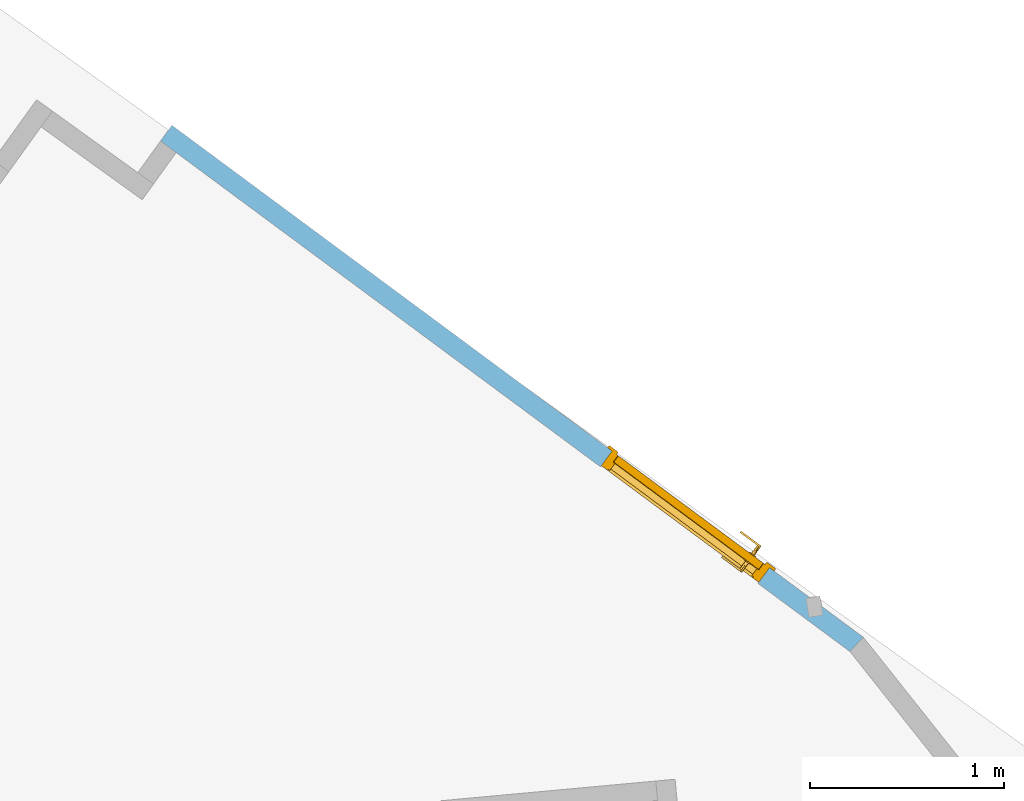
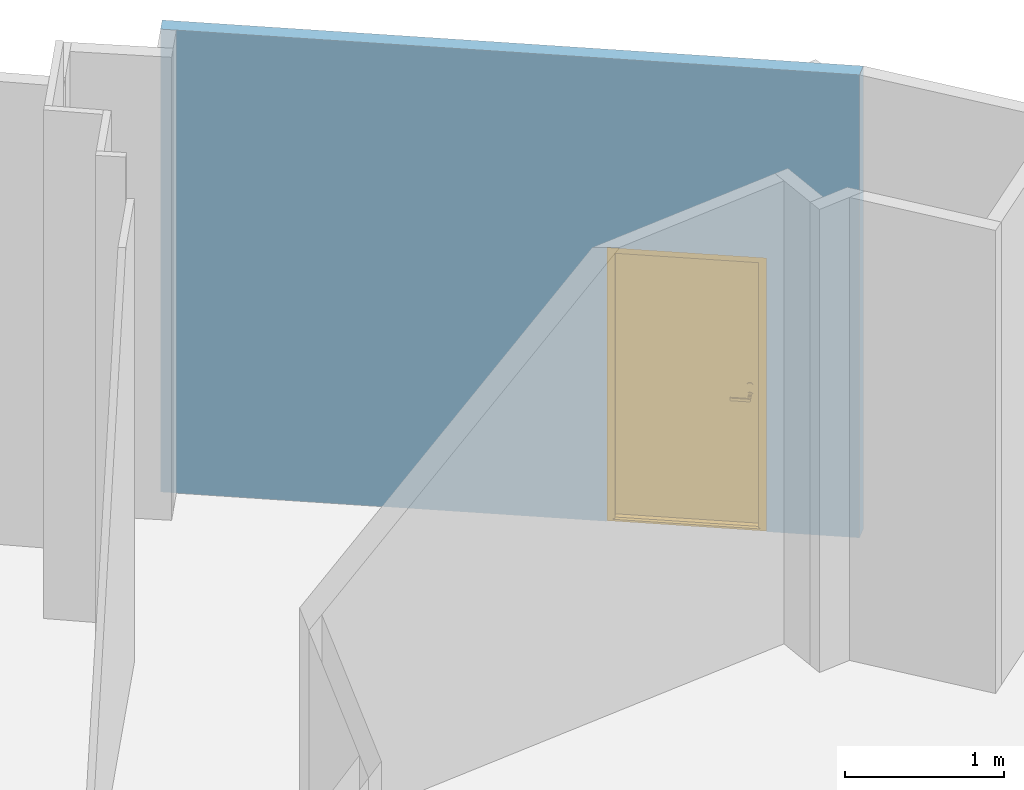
# One storey, part 8 of 10: 1 door, 1 opening, plus 1 element that does not belong to this part.
"""IFC2X3 building model written with IfcOpenShell, lengths in millimetres."""

from ifc_helpers import new_model, entity, si_unit, converted_unit, derived_unit, direction, frame, frame_2d, origin, origin_with_axes, place, context, subcontext, project, spatial, polyline, rectangle, outline, extrude, faceted_brep, source, transform, mapped, material, material_list, layer, layer_set, layer_usage, type_object, element, fill, save


model = new_model("IFC2X3")

# Units and contexts
model_context = context("Model", 3, precision=0.01, world=origin(), true_north=direction((6.12323399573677e-17, 1.0)))
plan_context = context("Plan", 3, precision=1e-05, world=origin_with_axes())
body_context = subcontext(model_context, "Body", "Model", "MODEL_VIEW")
ifc_project = project(units=[converted_unit("PLANEANGLEUNIT", "DEGREE", entity("IfcPositiveLengthMeasure", 0.0174532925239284), si_unit("PLANEANGLEUNIT", "RADIAN"), dimensions=[0, 0, 0, 0, 0, 0, 0]), si_unit("AREAUNIT", "SQUARE_METRE"), si_unit("LENGTHUNIT", "METRE", prefix="MILLI"), si_unit("MASSUNIT", "GRAM", prefix="KILO"), si_unit("POWERUNIT", "WATT"), si_unit("PRESSUREUNIT", "PASCAL", prefix="KILO"), si_unit("FORCEUNIT", "NEWTON", prefix="KILO"), si_unit("ELECTRICVOLTAGEUNIT", "VOLT"), si_unit("ELECTRICCURRENTUNIT", "AMPERE"), si_unit("THERMODYNAMICTEMPERATUREUNIT", "DEGREE_CELSIUS"), si_unit("TIMEUNIT", "SECOND"), si_unit("VOLUMEUNIT", "CUBIC_METRE"), derived_unit("LINEARVELOCITYUNIT", [(si_unit("LENGTHUNIT", "METRE"), 1), (si_unit("TIMEUNIT", "SECOND"), -1)]), derived_unit("VOLUMETRICFLOWRATEUNIT", [(si_unit("VOLUMEUNIT", "CUBIC_METRE"), 1), (si_unit("TIMEUNIT", "SECOND"), -1)]), derived_unit("THERMALTRANSMITTANCEUNIT", [(si_unit("POWERUNIT", "WATT"), 1), (si_unit("THERMODYNAMICTEMPERATUREUNIT", "KELVIN"), -1), (si_unit("AREAUNIT", "SQUARE_METRE"), -1)]), derived_unit("SOUNDPRESSUREUNIT", [(si_unit("PRESSUREUNIT", "PASCAL"), 1)])], contexts=[model_context, plan_context])

# Site, building, storey
site_placement = place(None, frame((-305029.896016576, -232111.759730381, 0.0), z_axis=(0.0, 0.0, 1.0), x_axis=(-0.160806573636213, 0.986985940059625, 0.0)))
site = spatial("IfcSite", under=ifc_project, at=site_placement, Name="Default", CompositionType="ELEMENT")
building_placement = place(site_placement, frame((0.0, 0.0, 0.0), z_axis=(0.0, 0.0, 1.0), x_axis=(1.0, -2.77555756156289e-17, 0.0)))
building = spatial("IfcBuilding", under=site, at=building_placement, Name="br001-a-200-1-0001", CompositionType="ELEMENT")
storey_placement = place(building_placement, frame((0.0, 0.0, 55500.0), z_axis=(0.0, 0.0, 1.0), x_axis=(1.0, -2.77555756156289e-17, 0.0)))
storey = spatial("IfcBuildingStorey", under=building, at=storey_placement, Name="H02-Nivå F-3,5 m", CompositionType="ELEMENT", Elevation=55500.0)

# Wall, opening, door
ifc_material_1 = material(Name="_NSW Standard")
ifc_layer = layer(ifc_material_1, 100.0)
ifc_layer_set = layer_set([ifc_layer], Name="Basic Wall:A242 - Standard 100")
ifc_layer_usage = layer_usage(ifc_layer_set, "AXIS2", "NEGATIVE", 50.0)
wall_type = type_object("IfcWallType", Name="Basic Wall:A242 - Standard 100", PredefinedType="STANDARD", material=ifc_layer_set)
wall_placement = place(storey_placement, frame((1194179.32891897, -689890.815086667, 0.0), z_axis=(0.0, 0.0, 1.0), x_axis=(-0.716617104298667, -0.697466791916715, 0.0)))
wall = element("IfcWallStandardCase", 1, at=wall_placement, inside=storey, type_object=wall_type, material=ifc_layer_usage, Name="Basic Wall:A242 - Standard 100", ObjectType="Basic Wall:A242 - Standard 100", context=body_context, shape_type="SweptSolid", body=[
    extrude(outline(polyline([(1.35425574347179, -50.0), (101.363425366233, -50.0), (4419.81441258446, -50.0), (4433.01492273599, 50.0), (4308.2686197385, 50.0), (4164.89261795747, 50.0), (0.0, 50.0), (1.35425574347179, -50.0)])), origin(), (0.0, 0.0, 1.0), 3550.00000000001),
])
opening_placement = place(wall_placement, frame((2821.17210464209, -50.0, 0.0), z_axis=(0.0, 0.0, 1.0), x_axis=(1.0, 0.0, 0.0)))
opening = element("IfcOpeningElement", 2, at=opening_placement, cuts=wall, Name="NSW Innvendig slagdør, enkel:ID-10M x 21M:1", ObjectType="Opening", context=body_context, shape_type="SweptSolid", body=[
    extrude(rectangle(XDim=2100.00000000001, YDim=1010.0, at=frame_2d((1050.0, 505.000000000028), x_axis=(1.0, 0.0))), frame((0.0, 0.0, 0.0), z_axis=(0.0, 1.0, 0.0), x_axis=(0.0, 0.0, 1.0)), (0.0, 0.0, 1.0), 100.0),
])
ifc_material_2 = material(Name="<Unnamed>")
ifc_material_3 = material(Name="_NSW Dør - dørblad, hvit")
ifc_material_4 = material(Name="_NSW Dør - terskel, tre")
ifc_material_5 = material(Name="_NSW Dør - listverk, hvit")
ifc_material_list = material_list([ifc_material_2, ifc_material_3, ifc_material_4, ifc_material_5])
door_style = type_object("IfcDoorStyle", Name="NSW Innvendig slagdør, enkel:ID-10M x 21M", ConstructionType="NOTDEFINED", OperationType="NOTDEFINED", ParameterTakesPrecedence=False, Sizeable=False, material=ifc_material_list)
shared_shape = source(origin(), body_context, "Body", "Brep", [
    faceted_brep([(889.499999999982, 55.0, 1058.17949192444), (894.323619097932, 55.0, 1056.18148347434), (899.499999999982, 55.0, 1055.50000000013), (904.676380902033, 55.0, 1056.18148347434), (909.499999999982, 55.0, 1058.17949192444), (913.642135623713, 55.0, 1061.35786437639), (916.820508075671, 55.0, 1065.50000000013), (918.818516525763, 55.0, 1070.32361909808), (919.499999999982, 55.0, 1075.50000000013), (918.818516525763, 55.0, 1080.67638090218), (916.820508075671, 55.0, 1085.50000000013), (913.642135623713, 55.0, 1089.64213562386), (909.499999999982, 55.0, 1092.82050807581), (904.676380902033, 55.0, 1094.81851652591), (899.499999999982, 55.0, 1095.50000000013), (894.323619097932, 55.0, 1094.81851652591), (889.499999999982, 55.0, 1092.82050807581), (885.357864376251, 55.0, 1089.64213562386), (882.179491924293, 55.0, 1085.50000000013), (880.181483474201, 55.0, 1080.67638090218), (879.499999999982, 55.0, 1075.50000000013), (880.181483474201, 55.0, 1070.32361909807), (882.179491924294, 55.0, 1065.50000000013), (885.357864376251, 55.0, 1061.35786437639), (889.499999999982, 60.0, 1092.82050807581), (894.323619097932, 60.0, 1094.81851652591), (899.499999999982, 60.0, 1095.50000000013), (904.676380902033, 60.0, 1094.81851652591), (909.499999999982, 60.0, 1092.82050807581), (913.642135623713, 60.0, 1089.64213562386), (916.820508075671, 60.0, 1085.50000000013), (918.818516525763, 60.0, 1080.67638090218), (919.499999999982, 60.0, 1075.50000000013), (918.818516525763, 60.0, 1070.32361909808), (916.820508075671, 60.0, 1065.50000000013), (913.642135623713, 60.0, 1061.35786437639), (909.499999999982, 60.0, 1058.17949192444), (904.676380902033, 60.0, 1056.18148347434), (899.499999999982, 60.0, 1055.50000000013), (894.323619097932, 60.0, 1056.18148347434), (889.499999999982, 60.0, 1058.17949192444), (885.357864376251, 60.0, 1061.35786437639), (882.179491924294, 60.0, 1065.50000000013), (880.181483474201, 60.0, 1070.32361909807), (879.499999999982, 60.0, 1075.50000000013), (880.181483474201, 60.0, 1080.67638090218), (882.179491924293, 60.0, 1085.50000000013), (885.357864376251, 60.0, 1089.64213562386)], [[[0, 1, 2, 3, 4, 5, 6, 7, 8, 9, 10, 11, 12, 13, 14, 15, 16, 17, 18, 19, 20, 21, 22, 23]], [[24, 25, 26, 27, 28, 29, 30, 31, 32, 33, 34, 35, 36, 37, 38, 39, 40, 41, 42, 43, 44, 45, 46, 47]], [[32, 8, 7, 33]], [[33, 7, 6, 34]], [[36, 35, 5, 4]], [[5, 35, 34, 6]], [[37, 36, 4, 3]], [[37, 3, 2, 38]], [[38, 2, 1, 39]], [[39, 1, 0, 40]], [[42, 41, 23, 22]], [[23, 41, 40, 0]], [[43, 42, 22, 21]], [[43, 21, 20, 44]], [[44, 20, 19, 45]], [[45, 19, 18, 46]], [[24, 47, 17, 16]], [[17, 47, 46, 18]], [[25, 24, 16, 15]], [[25, 15, 14, 26]], [[26, 14, 13, 27]], [[27, 13, 12, 28]], [[30, 29, 11, 10]], [[11, 29, 28, 12]], [[31, 30, 10, 9]], [[31, 9, 8, 32]]]),
    faceted_brep([(906.571067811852, -5.0, 1007.57106781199), (904.499999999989, -5.0, 1009.16025403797), (902.088190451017, -5.0, 1010.15925826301), (899.499999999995, -5.0, 1010.50000000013), (779.499999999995, -5.0, 1010.50000000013), (779.499999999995, -5.0, 990.500000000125), (899.499999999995, -5.0, 990.500000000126), (902.088190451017, -5.0, 990.840741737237), (904.499999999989, -5.0, 991.839745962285), (906.571067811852, -5.0, 993.428932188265), (908.160254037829, -5.0, 995.500000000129), (909.159258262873, -5.0, 997.911809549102), (909.499999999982, -5.0, 1000.50000000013), (909.159258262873, -5.0, 1003.08819045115), (908.160254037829, -5.0, 1005.50000000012), (779.499999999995, 5.0, 990.500000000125), (779.499999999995, 5.0, 1010.50000000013), (899.499999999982, 5.0, 1010.50000000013), (896.911809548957, 5.0, 1010.15925826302), (894.499999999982, 5.0, 1009.16025403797), (892.428932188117, 5.0, 1007.57106781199), (890.839745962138, 5.0, 1005.50000000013), (889.840741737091, 5.0, 1003.08819045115), (889.499999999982, 5.0, 1000.50000000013), (889.840741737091, 5.0, 997.9118095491), (890.839745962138, 5.0, 995.500000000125), (892.428932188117, 5.0, 993.42893218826), (894.499999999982, 5.0, 991.839745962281), (896.911809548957, 5.0, 990.840741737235), (899.499999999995, 5.0, 990.500000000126), (894.499999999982, 55.0, 1009.16025403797), (896.911809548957, 55.0, 1010.15925826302), (899.499999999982, 55.0, 1010.50000000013), (902.088190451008, 55.0, 1010.15925826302), (904.499999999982, 55.0, 1009.16025403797), (906.571067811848, 55.0, 1007.57106781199), (908.160254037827, 55.0, 1005.50000000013), (909.159258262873, 55.0, 1003.08819045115), (909.499999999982, 55.0, 1000.50000000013), (909.159258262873, 55.0, 997.9118095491), (908.160254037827, 55.0, 995.500000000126), (906.571067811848, 55.0, 993.42893218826), (904.499999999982, 55.0, 991.839745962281), (902.088190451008, 55.0, 990.840741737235), (899.499999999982, 55.0, 990.500000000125), (896.911809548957, 55.0, 990.840741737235), (894.499999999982, 55.0, 991.839745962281), (892.428932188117, 55.0, 993.42893218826), (890.839745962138, 55.0, 995.500000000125), (889.840741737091, 55.0, 997.9118095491), (889.499999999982, 55.0, 1000.50000000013), (889.840741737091, 55.0, 1003.08819045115), (890.839745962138, 55.0, 1005.50000000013), (892.428932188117, 55.0, 1007.57106781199)], [[[0, 1, 2, 3, 4, 5, 6, 7, 8, 9, 10, 11, 12, 13, 14]], [[15, 16, 17, 18, 19, 20, 21, 22, 23, 24, 25, 26, 27, 28, 29]], [[29, 6, 5, 15]], [[15, 5, 4, 16]], [[16, 4, 3, 17]], [[30, 31, 32, 33, 34, 35, 36, 37, 38, 39, 40, 41, 42, 43, 44, 45, 46, 47, 48, 49, 50, 51, 52, 53]], [[38, 12, 11, 39]], [[39, 11, 10, 40]], [[29, 41, 40]], [[40, 10, 29]], [[29, 42, 41]], [[8, 7, 29]], [[29, 9, 8]], [[10, 9, 29]], [[7, 6, 29]], [[43, 29, 44]], [[43, 42, 29]], [[44, 29, 28, 45]], [[45, 28, 27, 46]], [[48, 47, 26, 25]], [[24, 49, 48, 25]], [[26, 47, 46, 27]], [[49, 24, 23, 50]], [[50, 23, 22, 51]], [[51, 22, 21, 52]], [[30, 53, 20, 19]], [[20, 53, 52, 21]], [[31, 30, 19, 18]], [[17, 32, 31, 18]], [[32, 17, 33]], [[3, 2, 17]], [[33, 17, 34]], [[36, 35, 17]], [[13, 37, 36, 14]], [[17, 35, 34]], [[37, 13, 12, 38]], [[2, 1, 17]], [[0, 17, 1]], [[17, 0, 14]], [[36, 17, 14]]]),
    faceted_brep([(894.323619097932, 55.0, 981.181483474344), (899.499999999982, 55.0, 980.500000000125), (904.676380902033, 55.0, 981.181483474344), (909.499999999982, 55.0, 983.179491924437), (913.642135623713, 55.0, 986.357864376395), (916.820508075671, 55.0, 990.500000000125), (918.818516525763, 55.0, 995.323619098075), (919.499999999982, 55.0, 1000.50000000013), (918.818516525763, 55.0, 1005.67638090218), (916.820508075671, 55.0, 1010.50000000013), (913.642135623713, 55.0, 1014.64213562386), (909.499999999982, 55.0, 1017.82050807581), (904.676380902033, 55.0, 1019.81851652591), (899.499999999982, 55.0, 1020.50000000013), (894.323619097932, 55.0, 1019.81851652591), (889.499999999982, 55.0, 1017.82050807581), (885.357864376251, 55.0, 1014.64213562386), (882.179491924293, 55.0, 1010.50000000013), (880.181483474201, 55.0, 1005.67638090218), (879.499999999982, 55.0, 1000.50000000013), (880.181483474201, 55.0, 995.323619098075), (882.179491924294, 55.0, 990.500000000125), (885.357864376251, 55.0, 986.357864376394), (889.499999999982, 55.0, 983.179491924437), (889.499999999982, 60.0, 1017.82050807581), (894.323619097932, 60.0, 1019.81851652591), (899.499999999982, 60.0, 1020.50000000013), (904.676380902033, 60.0, 1019.81851652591), (909.499999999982, 60.0, 1017.82050807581), (913.642135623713, 60.0, 1014.64213562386), (916.820508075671, 60.0, 1010.50000000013), (918.818516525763, 60.0, 1005.67638090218), (919.499999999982, 60.0, 1000.50000000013), (918.818516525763, 60.0, 995.323619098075), (916.820508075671, 60.0, 990.500000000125), (913.642135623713, 60.0, 986.357864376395), (909.499999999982, 60.0, 983.179491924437), (904.676380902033, 60.0, 981.181483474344), (899.499999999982, 60.0, 980.500000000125), (894.323619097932, 60.0, 981.181483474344), (889.499999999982, 60.0, 983.179491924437), (885.357864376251, 60.0, 986.357864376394), (882.179491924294, 60.0, 990.500000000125), (880.181483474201, 60.0, 995.323619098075), (879.499999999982, 60.0, 1000.50000000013), (880.181483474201, 60.0, 1005.67638090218), (882.179491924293, 60.0, 1010.50000000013), (885.357864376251, 60.0, 1014.64213562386)], [[[0, 1, 2, 3, 4, 5, 6, 7, 8, 9, 10, 11, 12, 13, 14, 15, 16, 17, 18, 19, 20, 21, 22, 23]], [[24, 25, 26, 27, 28, 29, 30, 31, 32, 33, 34, 35, 36, 37, 38, 39, 40, 41, 42, 43, 44, 45, 46, 47]], [[32, 7, 6, 33]], [[33, 6, 5, 34]], [[36, 35, 4, 3]], [[4, 35, 34, 5]], [[37, 36, 3, 2]], [[37, 2, 1, 38]], [[38, 1, 0, 39]], [[39, 0, 23, 40]], [[42, 41, 22, 21]], [[22, 41, 40, 23]], [[43, 42, 21, 20]], [[43, 20, 19, 44]], [[44, 19, 18, 45]], [[45, 18, 17, 46]], [[24, 47, 16, 15]], [[16, 47, 46, 17]], [[25, 24, 15, 14]], [[25, 14, 13, 26]], [[26, 13, 12, 27]], [[27, 12, 11, 28]], [[30, 29, 10, 9]], [[10, 29, 28, 11]], [[31, 30, 9, 8]], [[31, 8, 7, 32]]]),
    faceted_brep([(882.179491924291, 105.0, 1065.5000000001), (880.181483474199, 105.0, 1070.32361909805), (879.49999999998, 105.0, 1075.5000000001), (880.181483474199, 105.0, 1080.67638090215), (882.179491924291, 105.0, 1085.5000000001), (885.357864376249, 105.0, 1089.64213562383), (889.49999999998, 105.0, 1092.82050807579), (894.323619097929, 105.0, 1094.81851652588), (899.49999999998, 105.0, 1095.5000000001), (904.67638090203, 105.0, 1094.81851652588), (909.49999999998, 105.0, 1092.82050807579), (913.642135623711, 105.0, 1089.64213562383), (916.820508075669, 105.0, 1085.5000000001), (918.818516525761, 105.0, 1080.67638090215), (919.49999999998, 105.0, 1075.5000000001), (918.818516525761, 105.0, 1070.32361909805), (916.820508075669, 105.0, 1065.5000000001), (913.642135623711, 105.0, 1061.35786437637), (909.49999999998, 105.0, 1058.17949192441), (904.67638090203, 105.0, 1056.18148347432), (899.49999999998, 105.0, 1055.5000000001), (894.323619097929, 105.0, 1056.18148347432), (889.49999999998, 105.0, 1058.17949192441), (885.357864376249, 105.0, 1061.35786437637), (899.49999999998, 100.0, 1095.5000000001), (894.323619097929, 100.0, 1094.81851652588), (889.49999999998, 100.0, 1092.82050807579), (885.357864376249, 100.0, 1089.64213562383), (882.179491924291, 100.0, 1085.5000000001), (880.181483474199, 100.0, 1080.67638090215), (879.49999999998, 100.0, 1075.5000000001), (880.181483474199, 100.0, 1070.32361909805), (882.179491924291, 100.0, 1065.5000000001), (885.357864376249, 100.0, 1061.35786437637), (889.49999999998, 100.0, 1058.17949192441), (894.323619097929, 100.0, 1056.18148347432), (899.49999999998, 100.0, 1055.5000000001), (904.67638090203, 100.0, 1056.18148347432), (909.49999999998, 100.0, 1058.17949192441), (913.642135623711, 100.0, 1061.35786437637), (916.820508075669, 100.0, 1065.5000000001), (918.818516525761, 100.0, 1070.32361909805), (919.49999999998, 100.0, 1075.5000000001), (918.818516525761, 100.0, 1080.67638090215), (916.820508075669, 100.0, 1085.5000000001), (913.642135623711, 100.0, 1089.64213562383), (909.49999999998, 100.0, 1092.82050807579), (904.67638090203, 100.0, 1094.81851652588)], [[[0, 1, 2, 3, 4, 5, 6, 7, 8, 9, 10, 11, 12, 13, 14, 15, 16, 17, 18, 19, 20, 21, 22, 23]], [[24, 25, 26, 27, 28, 29, 30, 31, 32, 33, 34, 35, 36, 37, 38, 39, 40, 41, 42, 43, 44, 45, 46, 47]], [[41, 15, 14, 42]], [[40, 16, 15, 41]], [[18, 17, 39, 38]], [[40, 39, 17, 16]], [[19, 18, 38, 37]], [[20, 19, 37, 36]], [[35, 21, 20, 36]], [[34, 22, 21, 35]], [[0, 23, 33, 32]], [[34, 33, 23, 22]], [[1, 0, 32, 31]], [[2, 1, 31, 30]], [[29, 3, 2, 30]], [[28, 4, 3, 29]], [[6, 5, 27, 26]], [[28, 27, 5, 4]], [[7, 6, 26, 25]], [[8, 7, 25, 24]], [[47, 9, 8, 24]], [[46, 10, 9, 47]], [[12, 11, 45, 44]], [[46, 45, 11, 10]], [[13, 12, 44, 43]], [[14, 13, 43, 42]]]),
    faceted_brep([(899.499999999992, 165.0, 990.500000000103), (779.499999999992, 165.0, 990.500000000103), (779.499999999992, 165.0, 1010.5000000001), (899.499999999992, 165.0, 1010.5000000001), (902.088190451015, 165.0, 1010.15925826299), (904.499999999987, 165.0, 1009.16025403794), (906.57106781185, 165.0, 1007.57106781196), (908.160254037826, 165.0, 1005.5000000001), (909.159258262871, 165.0, 1003.08819045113), (909.49999999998, 165.0, 1000.5000000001), (909.159258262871, 165.0, 997.91180954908), (908.160254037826, 165.0, 995.500000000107), (906.57106781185, 165.0, 993.428932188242), (904.499999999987, 165.0, 991.839745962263), (902.088190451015, 165.0, 990.840741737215), (896.911809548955, 155.0, 990.840741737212), (894.49999999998, 155.0, 991.839745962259), (892.428932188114, 155.0, 993.428932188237), (890.839745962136, 155.0, 995.500000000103), (889.840741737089, 155.0, 997.911809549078), (889.49999999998, 155.0, 1000.5000000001), (889.840741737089, 155.0, 1003.08819045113), (890.839745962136, 155.0, 1005.5000000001), (892.428932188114, 155.0, 1007.57106781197), (894.49999999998, 155.0, 1009.16025403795), (896.911809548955, 155.0, 1010.15925826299), (899.499999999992, 155.0, 1010.5000000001), (779.499999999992, 155.0, 1010.5000000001), (779.499999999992, 155.0, 990.500000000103), (899.49999999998, 155.0, 990.500000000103), (899.49999999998, 105.0, 1010.5000000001), (896.911809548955, 105.0, 1010.15925826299), (894.49999999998, 105.0, 1009.16025403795), (892.428932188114, 105.0, 1007.57106781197), (890.839745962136, 105.0, 1005.5000000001), (889.840741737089, 105.0, 1003.08819045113), (889.49999999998, 105.0, 1000.5000000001), (889.840741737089, 105.0, 997.911809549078), (890.839745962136, 105.0, 995.500000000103), (892.428932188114, 105.0, 993.428932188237), (894.49999999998, 105.0, 991.839745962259), (896.911809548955, 105.0, 990.840741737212), (899.49999999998, 105.0, 990.500000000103), (902.088190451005, 105.0, 990.840741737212), (904.49999999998, 105.0, 991.839745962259), (906.571067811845, 105.0, 993.428932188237), (908.160254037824, 105.0, 995.500000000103), (909.15925826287, 105.0, 997.911809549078), (909.49999999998, 105.0, 1000.5000000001), (909.15925826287, 105.0, 1003.08819045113), (908.160254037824, 105.0, 1005.5000000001), (906.571067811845, 105.0, 1007.57106781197), (904.49999999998, 105.0, 1009.16025403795), (902.088190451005, 105.0, 1010.15925826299)], [[[0, 1, 2, 3, 4, 5, 6, 7, 8, 9, 10, 11, 12, 13, 14]], [[15, 16, 17, 18, 19, 20, 21, 22, 23, 24, 25, 26, 27, 28, 29]], [[1, 0, 29, 28]], [[2, 1, 28, 27]], [[3, 2, 27, 26]], [[30, 31, 32, 33, 34, 35, 36, 37, 38, 39, 40, 41, 42, 43, 44, 45, 46, 47, 48, 49, 50, 51, 52, 53]], [[47, 10, 9, 48]], [[46, 11, 10, 47]], [[46, 45, 29]], [[29, 11, 46]], [[45, 44, 29]], [[29, 14, 13]], [[13, 12, 29]], [[29, 12, 11]], [[29, 0, 14]], [[42, 29, 43]], [[29, 44, 43]], [[41, 15, 29, 42]], [[40, 16, 15, 41]], [[18, 17, 39, 38]], [[38, 37, 19, 18]], [[40, 39, 17, 16]], [[36, 20, 19, 37]], [[35, 21, 20, 36]], [[34, 22, 21, 35]], [[24, 23, 33, 32]], [[34, 33, 23, 22]], [[25, 24, 32, 31]], [[25, 31, 30, 26]], [[53, 26, 30]], [[26, 4, 3]], [[52, 26, 53]], [[26, 51, 50]], [[50, 49, 8, 7]], [[52, 51, 26]], [[48, 9, 8, 49]], [[26, 5, 4]], [[5, 26, 6]], [[7, 6, 26]], [[7, 26, 50]]]),
    faceted_brep([(889.49999999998, 105.0, 983.179491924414), (885.357864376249, 105.0, 986.357864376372), (882.179491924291, 105.0, 990.500000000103), (880.181483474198, 105.0, 995.323619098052), (879.49999999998, 105.0, 1000.5000000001), (880.181483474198, 105.0, 1005.67638090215), (882.179491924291, 105.0, 1010.5000000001), (885.357864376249, 105.0, 1014.64213562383), (889.49999999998, 105.0, 1017.82050807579), (894.323619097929, 105.0, 1019.81851652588), (899.49999999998, 105.0, 1020.5000000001), (904.67638090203, 105.0, 1019.81851652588), (909.49999999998, 105.0, 1017.82050807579), (913.642135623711, 105.0, 1014.64213562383), (916.820508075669, 105.0, 1010.5000000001), (918.818516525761, 105.0, 1005.67638090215), (919.49999999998, 105.0, 1000.5000000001), (918.818516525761, 105.0, 995.323619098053), (916.820508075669, 105.0, 990.500000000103), (913.642135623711, 105.0, 986.357864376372), (909.49999999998, 105.0, 983.179491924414), (904.67638090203, 105.0, 981.181483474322), (899.49999999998, 105.0, 980.500000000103), (894.323619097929, 105.0, 981.181483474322), (899.49999999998, 100.0, 1020.5000000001), (894.323619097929, 100.0, 1019.81851652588), (889.49999999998, 100.0, 1017.82050807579), (885.357864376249, 100.0, 1014.64213562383), (882.179491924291, 100.0, 1010.5000000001), (880.181483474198, 100.0, 1005.67638090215), (879.49999999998, 100.0, 1000.5000000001), (880.181483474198, 100.0, 995.323619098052), (882.179491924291, 100.0, 990.500000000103), (885.357864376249, 100.0, 986.357864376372), (889.49999999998, 100.0, 983.179491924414), (894.323619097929, 100.0, 981.181483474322), (899.49999999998, 100.0, 980.500000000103), (904.67638090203, 100.0, 981.181483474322), (909.49999999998, 100.0, 983.179491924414), (913.642135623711, 100.0, 986.357864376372), (916.820508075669, 100.0, 990.500000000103), (918.818516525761, 100.0, 995.323619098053), (919.49999999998, 100.0, 1000.5000000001), (918.818516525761, 100.0, 1005.67638090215), (916.820508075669, 100.0, 1010.5000000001), (913.642135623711, 100.0, 1014.64213562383), (909.49999999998, 100.0, 1017.82050807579), (904.67638090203, 100.0, 1019.81851652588)], [[[0, 1, 2, 3, 4, 5, 6, 7, 8, 9, 10, 11, 12, 13, 14, 15, 16, 17, 18, 19, 20, 21, 22, 23]], [[24, 25, 26, 27, 28, 29, 30, 31, 32, 33, 34, 35, 36, 37, 38, 39, 40, 41, 42, 43, 44, 45, 46, 47]], [[41, 17, 16, 42]], [[40, 18, 17, 41]], [[20, 19, 39, 38]], [[40, 39, 19, 18]], [[21, 20, 38, 37]], [[22, 21, 37, 36]], [[35, 23, 22, 36]], [[34, 0, 23, 35]], [[2, 1, 33, 32]], [[34, 33, 1, 0]], [[3, 2, 32, 31]], [[4, 3, 31, 30]], [[29, 5, 4, 30]], [[28, 6, 5, 29]], [[8, 7, 27, 26]], [[28, 27, 7, 6]], [[9, 8, 26, 25]], [[10, 9, 25, 24]], [[47, 11, 10, 24]], [[46, 12, 11, 47]], [[14, 13, 45, 44]], [[46, 45, 13, 12]], [[15, 14, 44, 43]], [[16, 15, 43, 42]]]),
    faceted_brep([(40.4999999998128, 60.0, 2059.0), (40.4999999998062, 60.0, 18.0), (969.499999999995, 60.0, 18.0), (969.500000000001, 60.0, 2059.0), (40.4999999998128, 100.0, 2059.0), (969.500000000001, 100.0, 2059.0), (969.499999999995, 100.0, 18.0), (40.4999999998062, 100.0, 18.0)], [[[0, 1, 2, 3]], [[4, 5, 6, 7]], [[1, 0, 4, 7]], [[2, 1, 7, 6]], [[3, 2, 6, 5]], [[0, 3, 5, 4]]]),
    faceted_brep([(38.0, 100.0, 0.0), (38.0, 57.5, 0.0), (50.0, 57.5, 0.0), (50.0, 13.5000000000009, 0.0), (40.0, 13.5000000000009, 0.0), (40.0, 7.0, 0.0), (0.0, 7.0, 0.0), (0.0, 100.0, 0.0), (38.0, 100.0, 2062.0), (38.0, 57.5, 2062.0), (972.0, 57.5, 2062.0), (972.0, 57.5, 0.0), (960.0, 57.5, 0.0), (960.0, 57.5, 2050.0), (50.0, 57.5, 2050.0), (50.0, 13.5000000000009, 2050.0), (960.0, 13.5000000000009, 2050.0), (960.0, 13.5000000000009, 0.0), (970.0, 13.5000000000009, 0.0), (970.0, 13.5000000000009, 2060.0), (40.0, 13.5000000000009, 2060.0), (40.0, 7.0, 2060.0), (970.0, 7.0, 2060.0), (970.0, 7.0, 0.0), (1010.0, 7.0, 0.0), (1010.0, 7.0, 2100.0), (0.0, 7.0, 2100.0), (0.0, 100.0, 2100.0), (1010.0, 100.0, 2100.0), (1010.0, 100.0, 0.0), (972.0, 100.0, 0.0), (972.0, 100.0, 2062.0)], [[[0, 1, 2, 3, 4, 5, 6, 7]], [[1, 0, 8, 9]], [[2, 1, 9, 10, 11, 12, 13, 14]], [[3, 2, 14, 15]], [[4, 3, 15, 16, 17, 18, 19, 20]], [[5, 4, 20, 21]], [[6, 5, 21, 22, 23, 24, 25, 26]], [[7, 6, 26, 27]], [[0, 7, 27, 28, 29, 30, 31, 8]], [[9, 8, 31, 10]], [[15, 14, 13, 16]], [[21, 20, 19, 22]], [[27, 26, 25, 28]], [[30, 29, 24, 23, 18, 17, 12, 11]], [[10, 31, 30, 11]], [[16, 13, 12, 17]], [[22, 19, 18, 23]], [[28, 25, 24, 29]]]),
    faceted_brep([(972.0, 100.0, 0.0), (38.0, 100.0, 0.0), (38.0, 100.0, 14.0), (972.0, 100.0, 14.0), (38.0, 57.5000000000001, 14.0), (50.0, 57.5000000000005, 14.0), (960.0, 57.5000000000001, 14.0), (972.0, 57.499999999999, 14.0), (50.0, 57.5000000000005, 22.0), (960.0, 57.499999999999, 22.0), (50.0, 22.0, 22.0), (960.0, 22.0, 22.0), (50.0, 13.5000000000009, 17.4666666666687), (40.0, 13.5000000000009, 17.4666666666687), (40.0, 7.0, 14.0), (970.0, 7.0, 14.0), (970.0, 13.5000000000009, 17.4666666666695), (960.0, 13.5000000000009, 17.4666666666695), (40.0, 7.0, 0.0), (970.0, 7.0, 0.0), (972.0, 57.5000000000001, 0.0), (960.0, 57.5000000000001, 0.0), (960.0, 13.5000000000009, 0.0), (970.0, 13.5000000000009, 0.0), (40.0, 13.5000000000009, 0.0), (50.0, 13.5000000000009, 0.0), (50.0, 57.5000000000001, 0.0), (38.0, 57.5000000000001, 0.0)], [[[0, 1, 2, 3]], [[3, 2, 4, 5, 6, 7]], [[6, 5, 8, 9]], [[9, 8, 10, 11]], [[11, 10, 12, 13, 14, 15, 16, 17]], [[15, 14, 18, 19]], [[1, 0, 20, 21, 22, 23, 19, 18, 24, 25, 26, 27]], [[13, 24, 18, 14]], [[24, 13, 12, 25]], [[5, 26, 25, 12, 10, 8]], [[26, 5, 4, 27]], [[27, 4, 2, 1]], [[7, 20, 0, 3]], [[20, 7, 6, 21]], [[21, 6, 9, 11, 17, 22]], [[22, 17, 16, 23]], [[23, 16, 15, 19]]]),
    faceted_brep([(28.5000000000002, 100.0, 0.0), (-28.4999999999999, 100.0, 0.0), (-28.4999999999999, 115.0, 0.0), (28.5000000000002, 115.0, 0.0), (28.5000000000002, 100.0, 2071.50000000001), (981.499999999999, 100.0, 2071.50000000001), (981.499999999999, 100.0, 0.0), (1038.5, 100.0, 0.0), (1038.5, 100.0, 2128.50000000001), (-28.4999999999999, 100.0, 2128.50000000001), (-28.4999999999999, 115.0, 2128.50000000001), (1038.5, 115.0, 2128.50000000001), (1038.5, 115.0, 0.0), (981.499999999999, 115.0, 0.0), (981.499999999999, 115.0, 2071.50000000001), (28.5000000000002, 115.0, 2071.50000000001)], [[[0, 1, 2, 3]], [[1, 0, 4, 5, 6, 7, 8, 9]], [[2, 1, 9, 10]], [[3, 2, 10, 11, 12, 13, 14, 15]], [[0, 3, 15, 4]], [[10, 9, 8, 11]], [[4, 15, 14, 5]], [[6, 13, 12, 7]], [[11, 8, 7, 12]], [[5, 14, 13, 6]]]),
])
door_placement = place(opening_placement, origin_with_axes())
door = element("IfcDoor", 3, at=door_placement, inside=storey, type_object=door_style, material=ifc_material_list, Name="NSW Innvendig slagdør, enkel:ID-10M x 21M", ObjectType="NSW Innvendig slagdør, enkel:ID-10M x 21M", OverallHeight=2100.00000000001, OverallWidth=1009.99999999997, context=body_context, shape_type="MappedRepresentation", body=[
    mapped(shared_shape, transform((0.0, 0.0, 0.0), scale=1.0)),
])
fill(opening, door)

save(model, "model.ifc")
